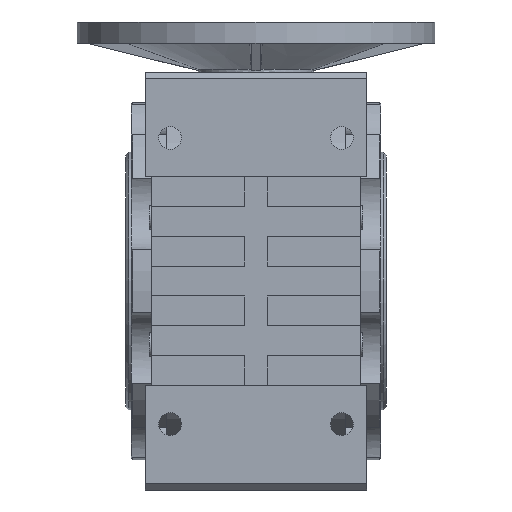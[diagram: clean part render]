
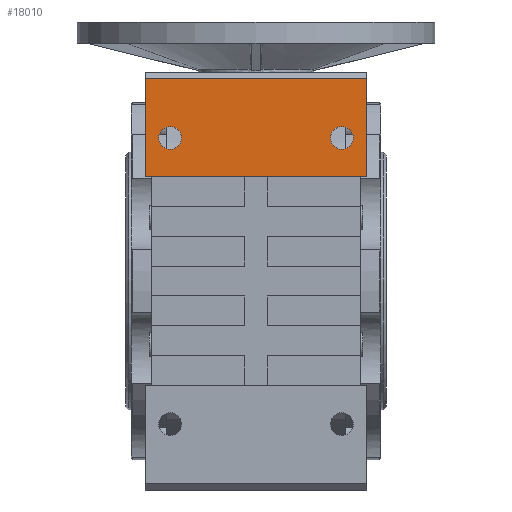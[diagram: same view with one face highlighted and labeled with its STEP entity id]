
A CAD part, front view. The second image highlights one B-rep face of the part: STEP entity #18010.
In plain terms, the highlighted planar face has unit normal (0, -1, 0).
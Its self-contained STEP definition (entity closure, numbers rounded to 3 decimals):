
#256=FACE_BOUND('',#2555,.T.);
#257=FACE_BOUND('',#2556,.T.);
#648=PLANE('',#19407);
#1485=FACE_OUTER_BOUND('',#2554,.T.);
#2554=EDGE_LOOP('',(#13990,#13991,#13992,#13993));
#2555=EDGE_LOOP('',(#13994));
#2556=EDGE_LOOP('',(#13995));
#3881=LINE('',#27841,#5636);
#3960=LINE('',#28068,#5715);
#4049=LINE('',#28266,#5804);
#4050=LINE('',#28267,#5805);
#5636=VECTOR('',#22634,1000.);
#5715=VECTOR('',#22775,1000.);
#5804=VECTOR('',#22938,1000.);
#5805=VECTOR('',#22939,1000.);
#6952=CIRCLE('',#19369,8.);
#6963=CIRCLE('',#19408,8.);
#8046=VERTEX_POINT('',#27833);
#8049=VERTEX_POINT('',#27839);
#8125=VERTEX_POINT('',#28063);
#8126=VERTEX_POINT('',#28067);
#8198=VERTEX_POINT('',#28265);
#8199=VERTEX_POINT('',#28268);
#10078=EDGE_CURVE('',#8049,#8046,#3881,.T.);
#10172=EDGE_CURVE('',#8125,#8125,#6952,.T.);
#10173=EDGE_CURVE('',#8126,#8046,#3960,.T.);
#10272=EDGE_CURVE('',#8198,#8049,#4049,.T.);
#10273=EDGE_CURVE('',#8198,#8126,#4050,.T.);
#10274=EDGE_CURVE('',#8199,#8199,#6963,.T.);
#13990=ORIENTED_EDGE('',*,*,#10173,.T.);
#13991=ORIENTED_EDGE('',*,*,#10078,.F.);
#13992=ORIENTED_EDGE('',*,*,#10272,.F.);
#13993=ORIENTED_EDGE('',*,*,#10273,.T.);
#13994=ORIENTED_EDGE('',*,*,#10172,.T.);
#13995=ORIENTED_EDGE('',*,*,#10274,.T.);
#18010=ADVANCED_FACE('',(#1485,#256,#257),#648,.T.);
#19369=AXIS2_PLACEMENT_3D('',#28065,#22771,#22772);
#19407=AXIS2_PLACEMENT_3D('',#28264,#22936,#22937);
#19408=AXIS2_PLACEMENT_3D('',#28269,#22940,#22941);
#22634=DIRECTION('',(0.,0.,-1.));
#22771=DIRECTION('center_axis',(0.,1.,0.));
#22772=DIRECTION('ref_axis',(0.,0.,-1.));
#22775=DIRECTION('',(1.,0.,0.));
#22936=DIRECTION('center_axis',(0.,-1.,0.));
#22937=DIRECTION('ref_axis',(0.,0.,-1.));
#22938=DIRECTION('',(1.,0.,0.));
#22939=DIRECTION('',(0.,0.,-1.));
#22940=DIRECTION('center_axis',(0.,1.,0.));
#22941=DIRECTION('ref_axis',(0.,0.,1.));
#27833=CARTESIAN_POINT('',(322.095,554.332,132.296));
#27839=CARTESIAN_POINT('',(322.095,554.332,200.916));
#27841=CARTESIAN_POINT('',(322.095,554.332,200.916));
#28063=CARTESIAN_POINT('',(304.595,554.332,151.296));
#28065=CARTESIAN_POINT('Origin',(304.595,554.332,159.296));
#28067=CARTESIAN_POINT('',(167.095,554.332,132.296));
#28068=CARTESIAN_POINT('',(167.095,554.332,132.296));
#28264=CARTESIAN_POINT('Origin',(167.095,554.332,200.916));
#28265=CARTESIAN_POINT('',(167.095,554.332,200.916));
#28266=CARTESIAN_POINT('',(167.095,554.332,200.916));
#28267=CARTESIAN_POINT('',(167.095,554.332,200.916));
#28268=CARTESIAN_POINT('',(184.595,554.332,151.296));
#28269=CARTESIAN_POINT('Origin',(184.595,554.332,159.296));
